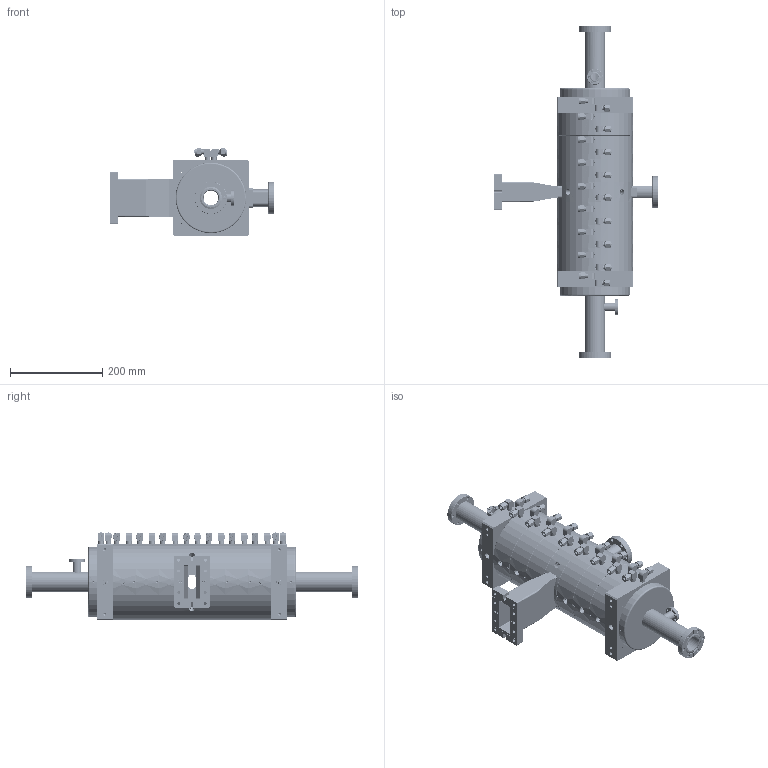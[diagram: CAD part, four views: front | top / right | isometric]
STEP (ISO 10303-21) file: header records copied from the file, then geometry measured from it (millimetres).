
FILE_DESCRIPTION((''),'2;1');
FILE_NAME('256-14830_ASM','2019-07-24T',('grs17657'),(''),'PRO/ENGINEER BY PARAMETRIC TECHNOLOGY CORPORATION, 2016010','PRO/ENGINEER BY PARAMETRIC TECHNOLOGY CORPORATION, 2016010','');
FILE_SCHEMA(('AUTOMOTIVE_DESIGN { 1 0 10303 214 1 1 1 1 }'));
Length unit declared in the file: millimetre
Products named in the file (26): 256-14828; 256-14829; 256-14831; 256-14832_AF0; 256-10616; 256-14832_AF1; 256-14937; 256-14837; 256-14836; 256-14834; 256-10453_AF0; 048-037-04-B_AF0; 048-037-05-03; 048-037-05-02_AF0; 048-037-05-B_AF0_ASM; 256-10455-01_AF0; 256-10455-02_AF0; 256-10455_ASM; 256-10615; 048-037-02-03; 048-037-02-02; 048-037-02_ASM; 256-14833; 256-14835; 256-15129; 256-14830_ASM
Assembly tree (76 placements, depth 3):
  256-14830_ASM
    256-14828
    256-14829  x6
    256-14831  x2
    256-14832_AF0
    256-10616  x2
    256-14832_AF1
    256-14937  x20
    256-14837
    256-14836  x6
    256-14834  x2
    256-10453_AF0
    048-037-04-B_AF0
    048-037-05-B_AF0_ASM
      048-037-05-03
      048-037-05-02_AF0
    256-10455_ASM
      256-10455-01_AF0
      256-10455-02_AF0
    256-10615  x2
    048-037-02_ASM  x2
      048-037-02-03
      048-037-02-02
    256-14833
    256-14835  x18
    256-15129
Bounding box: 357 x 720 x 190.58 mm (x, y, z)
Volume: 6439931.4 mm3; surface area: 1681259.3 mm2
Topology: 74 solids, 138 shells, 3408 faces, 8221 edges, 5141 vertices
Faces by surface type: cylinder 1329, plane 1003, cone 660, bspline 220, torus 196
Entity records: 55133 total; most frequent: CARTESIAN_POINT 14454, DIRECTION 5542, ORIENTED_EDGE 5356, EDGE_CURVE 2724, AXIS2_PLACEMENT_3D 2200, PRESENTATION_STYLE_ASSIGNMENT 1884, STYLED_ITEM 1884, CURVE_STYLE 1805
